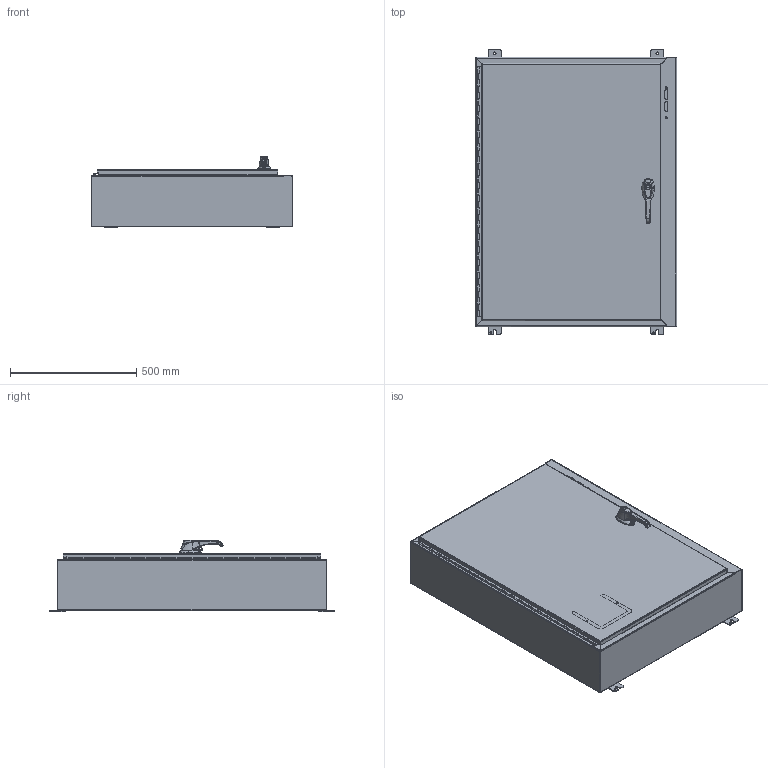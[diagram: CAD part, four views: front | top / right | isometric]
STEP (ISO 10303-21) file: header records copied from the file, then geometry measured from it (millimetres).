
FILE_DESCRIPTION (( 'STEP AP203' ), '1' );
FILE_NAME ('a42sa3208lppl.STEP', '2008-05-02T17:33:00', ( '' ), ( '' ), 'SwSTEP 2.0', 'SolidWorks 2007', '' );
FILE_SCHEMA (( 'CONFIG_CONTROL_DESIGN' ));
Products named in the file (21): ASAHPDF_Handle_41309; 22112001_stud collar .375-16x1.00; Panel_Nema_A42P30; A55 Handle 1; A55 Handle 2; insert; a42sa3208lppl; A25WmtBody_42x32x8; A25Body_42x32x8; A25EndBot_32x8; A25EndTop_32x8; 22118xxx_hinge_body_39in; 22110001_mtg_foot; A25DoorAssy_42x32; A25Door_42x32; 22118xxx_hinge_door_39in; 24352001_print_pocket; A55 Handle 3; A55 Handle 4; A55 Handle 5; A55 Handle gasket
Assembly tree (28 placements, depth 3):
  a42sa3208lppl
    A25DoorAssy_42x32
      22118xxx_hinge_door_39in
      24352001_print_pocket
      A25Door_42x32
    A25WmtBody_42x32x8
      A25Body_42x32x8
      22110001_mtg_foot  x4
      22112001_stud collar .375-16x1.00  x6
      A25EndTop_32x8
      A25EndBot_32x8
      22118xxx_hinge_body_39in
    Panel_Nema_A42P30
    ASAHPDF_Handle_41309
      insert
      A55 Handle 4
      A55 Handle 5
      A55 Handle 3
      A55 Handle 2
      A55 Handle 1
      A55 Handle gasket
Bounding box: 796.92 x 1130.3 x 284.42 mm (x, y, z)
Volume: 6788505.9 mm3; surface area: 6917797.8 mm2
Topology: 24 solids, 27 shells, 1646 faces, 4315 edges, 2737 vertices
Faces by surface type: plane 714, cylinder 597, bspline 156, torus 92, cone 77, sphere 10
Entity records: 64147 total; most frequent: CARTESIAN_POINT 26590, ORIENTED_EDGE 7709, DIRECTION 6689, EDGE_CURVE 3895, VERTEX_POINT 2475, AXIS2_PLACEMENT_3D 2314, VECTOR 2061, LINE 2061
